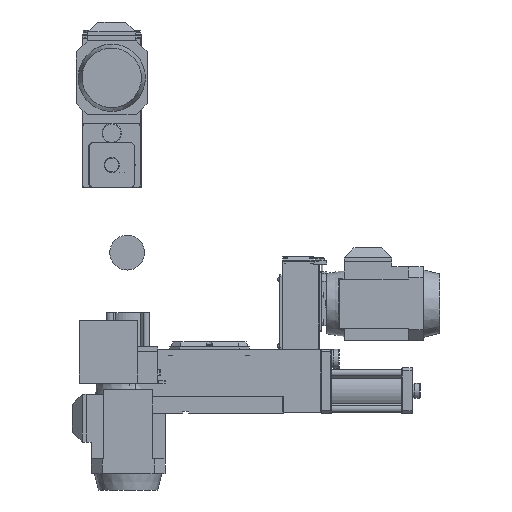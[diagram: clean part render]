
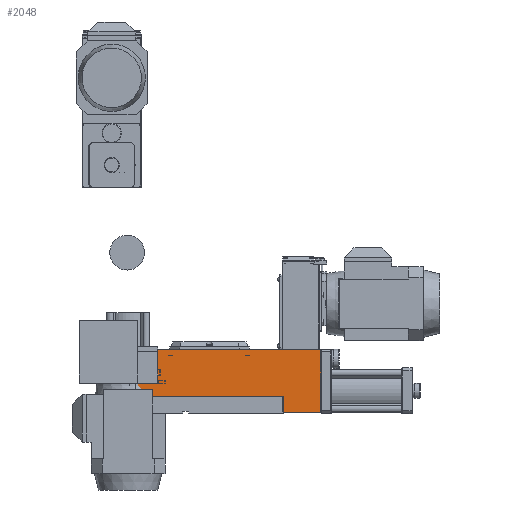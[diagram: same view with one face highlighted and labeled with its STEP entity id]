
A CAD part, left-side view. The second image highlights one B-rep face of the part: STEP entity #2048.
In plain terms, the highlighted planar face has unit normal (-1, 0, 0) as drawn and (0, 1, 0) by its records, which use the part's own axes.
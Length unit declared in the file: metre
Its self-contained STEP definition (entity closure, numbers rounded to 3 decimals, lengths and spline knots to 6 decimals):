
#2048 = ADVANCED_FACE( '', ( #2936 ), #2937, .T. );
#2936 = FACE_OUTER_BOUND( '', #4890, .T. );
#2937 = PLANE( '', #4891 );
#4890 = EDGE_LOOP( '', ( #7711, #7712, #7713, #7714, #7715, #7716 ) );
#4891 = AXIS2_PLACEMENT_3D( '', #7717, #7718, #7719 );
#7711 = ORIENTED_EDGE( '', *, *, #13399, .F. );
#7712 = ORIENTED_EDGE( '', *, *, #13389, .T. );
#7713 = ORIENTED_EDGE( '', *, *, #13396, .T. );
#7714 = ORIENTED_EDGE( '', *, *, #13400, .F. );
#7715 = ORIENTED_EDGE( '', *, *, #13401, .F. );
#7716 = ORIENTED_EDGE( '', *, *, #13402, .F. );
#7717 = CARTESIAN_POINT( '', ( -0.347, 0.098556, 0. ) );
#7718 = DIRECTION( '', ( 0., 1., 0. ) );
#7719 = DIRECTION( '', ( 0., 0., 1. ) );
#13389 = EDGE_CURVE( '', #15109, #15113, #15115, .T. );
#13396 = EDGE_CURVE( '', #15113, #15124, #15126, .T. );
#13399 = EDGE_CURVE( '', #15109, #15129, #15130, .T. );
#13400 = EDGE_CURVE( '', #15065, #15124, #15131, .T. );
#13401 = EDGE_CURVE( '', #15132, #15065, #15133, .T. );
#13402 = EDGE_CURVE( '', #15129, #15132, #15134, .T. );
#15065 = VERTEX_POINT( '', #17843 );
#15109 = VERTEX_POINT( '', #17912 );
#15113 = VERTEX_POINT( '', #17918 );
#15115 = LINE( '', #17921, #17922 );
#15124 = VERTEX_POINT( '', #17935 );
#15126 = LINE( '', #17938, #17939 );
#15129 = VERTEX_POINT( '', #17944 );
#15130 = LINE( '', #17945, #17946 );
#15131 = LINE( '', #17947, #17948 );
#15132 = VERTEX_POINT( '', #17949 );
#15133 = LINE( '', #17950, #17951 );
#15134 = LINE( '', #17952, #17953 );
#17843 = CARTESIAN_POINT( '', ( -0.3465, 0.098556, 0.0005 ) );
#17912 = CARTESIAN_POINT( '', ( 0.0245, 0.098556, 0.032 ) );
#17918 = CARTESIAN_POINT( '', ( -0.271, 0.098556, 0.032 ) );
#17921 = CARTESIAN_POINT( '', ( -0.235, 0.098556, 0.032 ) );
#17922 = VECTOR( '', #22507, 1. );
#17935 = CARTESIAN_POINT( '', ( -0.271, 0.098556, 0.0005 ) );
#17938 = CARTESIAN_POINT( '', ( -0.271, 0.098556, 0. ) );
#17939 = VECTOR( '', #22516, 1. );
#17944 = CARTESIAN_POINT( '', ( 0.0245, 0.098556, 0.1265 ) );
#17945 = CARTESIAN_POINT( '', ( 0.0245, 0.098556, 0. ) );
#17946 = VECTOR( '', #22519, 1. );
#17947 = CARTESIAN_POINT( '', ( -0.254, 0.098556, 0.0005 ) );
#17948 = VECTOR( '', #22520, 1. );
#17949 = CARTESIAN_POINT( '', ( -0.3465, 0.098556, 0.1265 ) );
#17950 = CARTESIAN_POINT( '', ( -0.3465, 0.098556, 0. ) );
#17951 = VECTOR( '', #22521, 1. );
#17952 = CARTESIAN_POINT( '', ( -0.254, 0.098556, 0.1265 ) );
#17953 = VECTOR( '', #22522, 1. );
#22507 = DIRECTION( '', ( -1., 0., 0. ) );
#22516 = DIRECTION( '', ( 0., 0., -1. ) );
#22519 = DIRECTION( '', ( 0., 0., 1. ) );
#22520 = DIRECTION( '', ( 1., 0., 0. ) );
#22521 = DIRECTION( '', ( 0., 0., -1. ) );
#22522 = DIRECTION( '', ( -1., 0., 0. ) );
